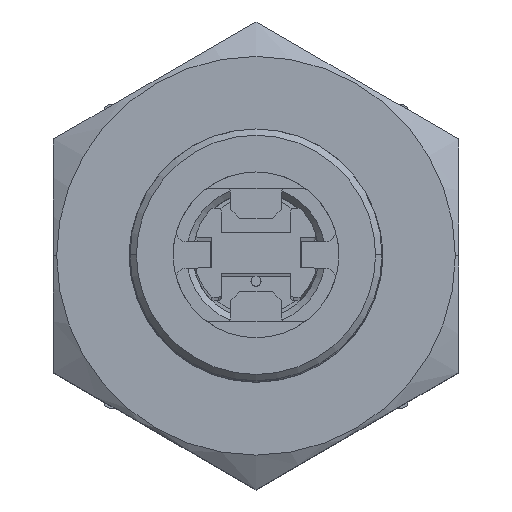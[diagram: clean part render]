
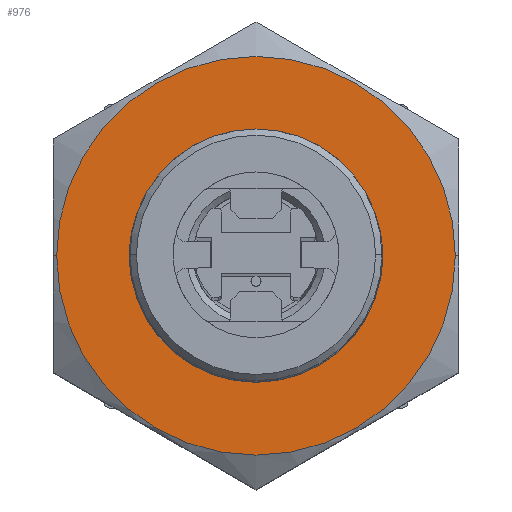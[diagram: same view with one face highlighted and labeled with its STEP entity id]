
A CAD part, top view. The second image highlights one B-rep face of the part: STEP entity #976.
In plain terms, the highlighted planar face has unit normal (0, 0, 1) as drawn and (0, 0, -1) by its records, which use the part's own axes.
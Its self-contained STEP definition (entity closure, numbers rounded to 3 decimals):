
#269 = DIRECTION ( 'NONE',  ( -1., 0., 0. ) ) ;
#578 = ORIENTED_EDGE ( 'NONE', *, *, #9698, .T. ) ;
#976 = ADVANCED_FACE ( 'NONE', ( #22318, #17827 ), #23777, .T. ) ;
#1328 = AXIS2_PLACEMENT_3D ( 'NONE', #23198, #11734, #269 ) ;
#1404 = EDGE_LOOP ( 'NONE', ( #1784, #20897 ) ) ;
#1565 = CARTESIAN_POINT ( 'NONE',  ( 0., 0., -28.6 ) ) ;
#1600 = VERTEX_POINT ( 'NONE', #23126 ) ;
#1784 = ORIENTED_EDGE ( 'NONE', *, *, #16623, .F. ) ;
#3051 = CIRCLE ( 'NONE', #16410, 9.275 ) ;
#3432 = DIRECTION ( 'NONE',  ( 0., 0., 1. ) ) ;
#3456 = DIRECTION ( 'NONE',  ( -1., 0., 0. ) ) ;
#3691 = CIRCLE ( 'NONE', #1328, 9.275 ) ;
#4201 = CARTESIAN_POINT ( 'NONE',  ( -15.75, 0., -28.6 ) ) ;
#6817 = EDGE_LOOP ( 'NONE', ( #19551, #578 ) ) ;
#7522 = CARTESIAN_POINT ( 'NONE',  ( 15.75, 0., -28.6 ) ) ;
#9698 = EDGE_CURVE ( 'NONE', #1600, #12038, #3691, .T. ) ;
#10004 = CARTESIAN_POINT ( 'NONE',  ( -9.275, 0., -28.6 ) ) ;
#10545 = AXIS2_PLACEMENT_3D ( 'NONE', #23281, #18049, #19364 ) ;
#11274 = DIRECTION ( 'NONE',  ( 0., 0., 1. ) ) ;
#11716 = EDGE_CURVE ( 'NONE', #12038, #1600, #3051, .T. ) ;
#11734 = DIRECTION ( 'NONE',  ( 0., 0., 1. ) ) ;
#12038 = VERTEX_POINT ( 'NONE', #10004 ) ;
#12409 = VERTEX_POINT ( 'NONE', #7522 ) ;
#14894 = CARTESIAN_POINT ( 'NONE',  ( 0., 0., -28.6 ) ) ;
#14918 = DIRECTION ( 'NONE',  ( 0., 0., 1. ) ) ;
#15135 = VERTEX_POINT ( 'NONE', #4201 ) ;
#16295 = AXIS2_PLACEMENT_3D ( 'NONE', #14894, #3432, #16834 ) ;
#16410 = AXIS2_PLACEMENT_3D ( 'NONE', #1565, #14918, #3456 ) ;
#16623 = EDGE_CURVE ( 'NONE', #12409, #15135, #17835, .T. ) ;
#16834 = DIRECTION ( 'NONE',  ( 1., 0., 0. ) ) ;
#17097 = EDGE_CURVE ( 'NONE', #15135, #12409, #19030, .T. ) ;
#17827 = FACE_OUTER_BOUND ( 'NONE', #1404, .T. ) ;
#17835 = CIRCLE ( 'NONE', #23697, 15.75 ) ;
#18049 = DIRECTION ( 'NONE',  ( 0., 0., -1. ) ) ;
#19030 = CIRCLE ( 'NONE', #16295, 15.75 ) ;
#19364 = DIRECTION ( 'NONE',  ( -1., 0., 0. ) ) ;
#19551 = ORIENTED_EDGE ( 'NONE', *, *, #11716, .T. ) ;
#20897 = ORIENTED_EDGE ( 'NONE', *, *, #17097, .F. ) ;
#22318 = FACE_BOUND ( 'NONE', #6817, .T. ) ;
#22725 = CARTESIAN_POINT ( 'NONE',  ( 0., 0., -28.6 ) ) ;
#23126 = CARTESIAN_POINT ( 'NONE',  ( 9.275, 0., -28.6 ) ) ;
#23198 = CARTESIAN_POINT ( 'NONE',  ( 0., 0., -28.6 ) ) ;
#23281 = CARTESIAN_POINT ( 'NONE',  ( 16., 27.713, -28.6 ) ) ;
#23697 = AXIS2_PLACEMENT_3D ( 'NONE', #22725, #11274, #24691 ) ;
#23777 = PLANE ( 'NONE',  #10545 ) ;
#24691 = DIRECTION ( 'NONE',  ( 1., 0., 0. ) ) ;
